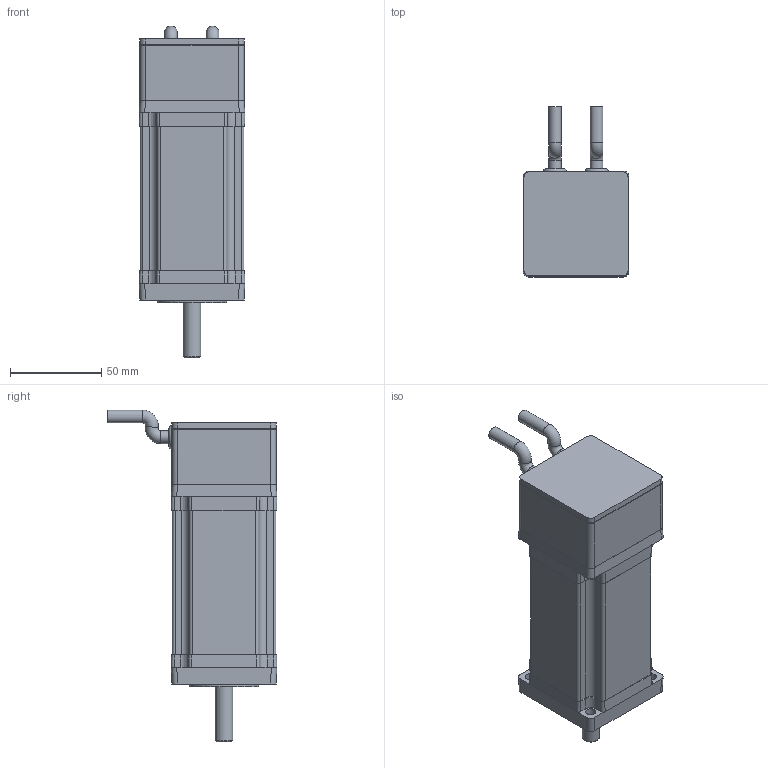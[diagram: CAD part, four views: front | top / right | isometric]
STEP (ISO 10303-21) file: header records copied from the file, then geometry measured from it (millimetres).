
FILE_DESCRIPTION((''),'2;1');
FILE_NAME('C:\CAD_work\Dummy_Modeling_Project_02-12-05\3D MODELS\BE233_CBL.stp','2005-12-20T15:23:01',('jevans'),(''),'Autodesk Inventor 10','Autodesk Inventor 10','');
FILE_SCHEMA(('AUTOMOTIVE_DESIGN { 1 0 10303 214 1 1 1 1 }'));
Length unit declared in the file: inch
Products named in the file (1): BE23_CBL
Bounding box: 57.95 x 93.11 x 182.1 mm (x, y, z)
Volume: 436671.2 mm3; surface area: 47236.2 mm2
Topology: 3 solids, 3 shells, 213 faces, 538 edges, 346 vertices
Faces by surface type: plane 106, cylinder 84, torus 9, cone 8, bspline 6
Full cylindrical faces by diameter (mm): 1.27 x2, 6.985 x4, 9.52 x1, 9.525 x1, 12.7 x2, 21.59 x1, 24.13 x1, 25.403 x1, 26 x1, 27.076 x1, 31.75 x3, 38.1 x1, 41.732 x1, 47.015 x1
Entity records: 6323 total; most frequent: CARTESIAN_POINT 1224, DIRECTION 1114, ORIENTED_EDGE 970, EDGE_CURVE 485, AXIS2_PLACEMENT_3D 421, VERTEX_POINT 333, EDGE_LOOP 282, VECTOR 272
